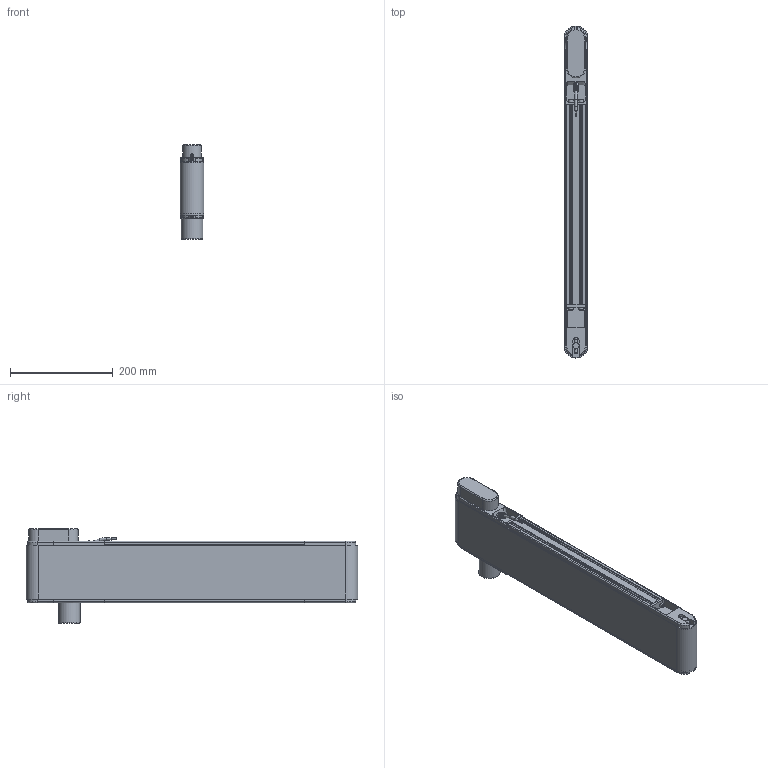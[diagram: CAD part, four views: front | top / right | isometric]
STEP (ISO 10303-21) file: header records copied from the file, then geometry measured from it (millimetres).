
FILE_DESCRIPTION(/* description */ (''),/* implementation_level */ '2;1');
FILE_NAME(/* name */ 'G:\DATEN\CAD\Förderband\Marketing\3D-Modelle (Standard)\FR-40-120-Q\FR-40-120-Q-600-K (Motorendrohr 40 mm).stp',/* time_stamp */ '2019-05-09T08:29:07+02:00',/* author */ ('melanie.ochs'),/* organization */ (''),/* preprocessor_version */ 'ST-DEVELOPER v17',/* originating_system */ 'Autodesk Inventor 2019',/* authorisation */ '');
FILE_SCHEMA (('CONFIG_CONTROL_DESIGN'));
Length unit declared in the file: centimetre
Products named in the file (1): FR-40-120-Q-600-K (Motorendrohr 40 mm)
Bounding box: 46.6 x 646.6 x 185 mm (x, y, z)
Volume: 1758933.5 mm3; surface area: 803365.8 mm2
Topology: 31 solids, 32 shells, 877 faces, 2377 edges, 1616 vertices
Faces by surface type: plane 441, cylinder 278, cone 67, bspline 61, torus 30
Full cylindrical faces by diameter (mm): 1 x6, 4 x6, 4.3 x4, 4.65 x1, 4.917 x1, 5 x11, 5.5 x8, 6 x2, 6.5 x1, 6.773 x1, 6.917 x2, 8 x7, 8.3 x12, 8.5 x8, 8.773 x1, 10 x1, 11 x1, 12 x3, 25 x2, 28 x4, 40.917 x1, 42 x1, 44 x2
Entity records: 29419 total; most frequent: CARTESIAN_POINT 6209, ORIENTED_EDGE 4718, DIRECTION 4580, EDGE_CURVE 2359, AXIS2_PLACEMENT_3D 1661, VERTEX_POINT 1616, LINE 1258, VECTOR 1258
